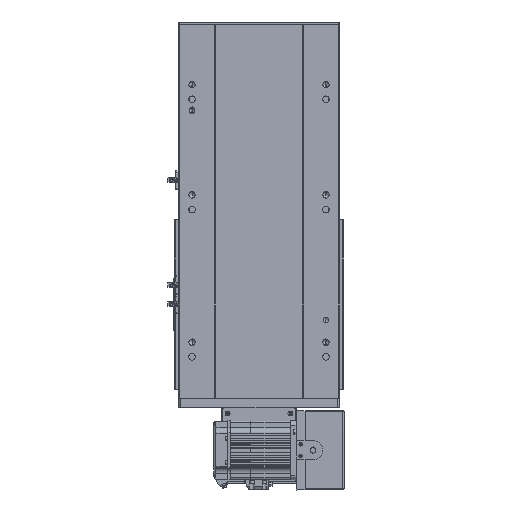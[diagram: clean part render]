
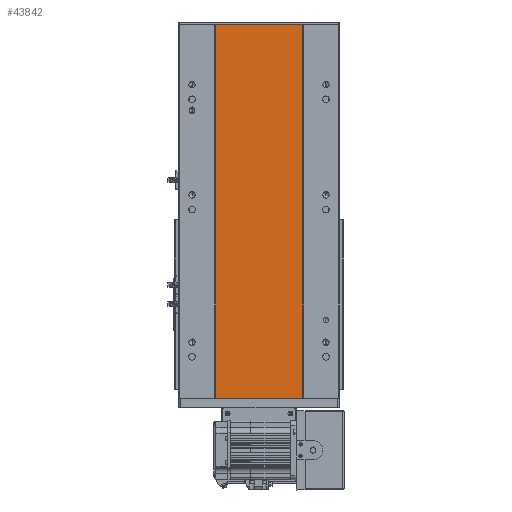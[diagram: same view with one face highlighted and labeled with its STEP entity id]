
A CAD part, front view. The second image highlights one B-rep face of the part: STEP entity #43842.
In plain terms, the highlighted planar face has unit normal (0, -1, 0).
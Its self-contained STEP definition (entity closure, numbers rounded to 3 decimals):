
#3032 = EDGE_CURVE ( 'NONE', #15714, #45752, #27540, .T. ) ;
#3112 = DIRECTION ( 'NONE',  ( 0., 0., -1. ) ) ;
#4000 = EDGE_CURVE ( 'NONE', #27013, #43770, #29062, .T. ) ;
#4599 = DIRECTION ( 'NONE',  ( 0., 0., -1. ) ) ;
#5470 = DIRECTION ( 'NONE',  ( 1., 0., 0. ) ) ;
#5541 = CARTESIAN_POINT ( 'NONE',  ( 0., 155.016, 507. ) ) ;
#6821 = ORIENTED_EDGE ( 'NONE', *, *, #28649, .T. ) ;
#7813 = CARTESIAN_POINT ( 'NONE',  ( 432.408, 155.016, 507. ) ) ;
#8761 = DIRECTION ( 'NONE',  ( 1., 0., 0. ) ) ;
#9987 = CARTESIAN_POINT ( 'NONE',  ( 551.58, 155.016, 507. ) ) ;
#10479 = DIRECTION ( 'NONE',  ( 0., 1., 0. ) ) ;
#11880 = CARTESIAN_POINT ( 'NONE',  ( 432.408, 155.016, 0. ) ) ;
#13709 = VECTOR ( 'NONE', #4599, 1000. ) ;
#14176 = CARTESIAN_POINT ( 'NONE',  ( 0., 155.016, 507. ) ) ;
#15714 = VERTEX_POINT ( 'NONE', #37613 ) ;
#18239 = ORIENTED_EDGE ( 'NONE', *, *, #20514, .F. ) ;
#19192 = VECTOR ( 'NONE', #5470, 1000. ) ;
#20067 = LINE ( 'NONE', #35128, #19192 ) ;
#20355 = CARTESIAN_POINT ( 'NONE',  ( 551.58, 155.016, 0. ) ) ;
#20514 = EDGE_CURVE ( 'NONE', #15714, #27013, #20864, .T. ) ;
#20864 = LINE ( 'NONE', #5541, #30140 ) ;
#27013 = VERTEX_POINT ( 'NONE', #9987 ) ;
#27540 = LINE ( 'NONE', #7813, #13709 ) ;
#28649 = EDGE_CURVE ( 'NONE', #45752, #43770, #20067, .T. ) ;
#29062 = LINE ( 'NONE', #44355, #47353 ) ;
#29230 = FACE_OUTER_BOUND ( 'NONE', #39739, .T. ) ;
#29372 = AXIS2_PLACEMENT_3D ( 'NONE', #14176, #10479, #36885 ) ;
#30140 = VECTOR ( 'NONE', #8761, 1000. ) ;
#31654 = ORIENTED_EDGE ( 'NONE', *, *, #3032, .T. ) ;
#35128 = CARTESIAN_POINT ( 'NONE',  ( 0., 155.016, 0. ) ) ;
#36885 = DIRECTION ( 'NONE',  ( 0., 0., 1. ) ) ;
#37613 = CARTESIAN_POINT ( 'NONE',  ( 432.408, 155.016, 507. ) ) ;
#39739 = EDGE_LOOP ( 'NONE', ( #6821, #46718, #18239, #31654 ) ) ;
#43770 = VERTEX_POINT ( 'NONE', #20355 ) ;
#43842 = ADVANCED_FACE ( 'NONE', ( #29230 ), #47993, .F. ) ;
#44355 = CARTESIAN_POINT ( 'NONE',  ( 551.58, 155.016, 507. ) ) ;
#45752 = VERTEX_POINT ( 'NONE', #11880 ) ;
#46718 = ORIENTED_EDGE ( 'NONE', *, *, #4000, .F. ) ;
#47353 = VECTOR ( 'NONE', #3112, 1000. ) ;
#47993 = PLANE ( 'NONE',  #29372 ) ;
